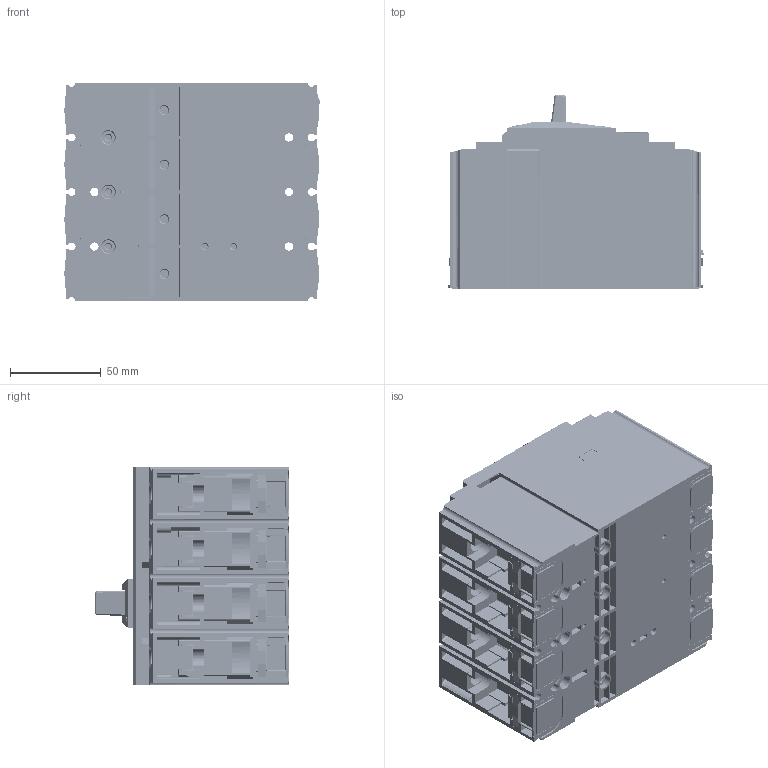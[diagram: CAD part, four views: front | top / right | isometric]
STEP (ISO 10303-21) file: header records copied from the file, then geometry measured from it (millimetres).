
FILE_DESCRIPTION((''),'2;1');
FILE_NAME('TD160_4P_ASM','2009-09-08T',('bsan'),(''),'PRO/ENGINEER BY PARAMETRIC TECHNOLOGY CORPORATION, 2006200','PRO/ENGINEER BY PARAMETRIC TECHNOLOGY CORPORATION, 2006200','');
FILE_SCHEMA(('CONFIG_CONTROL_DESIGN'));
Length unit declared in the file: millimetre
Products named in the file (40): T1_CASE-4P_1; T1_MOUNTER-TERMINAL_1; T1_PLATE-TERMINAL_1; T1_MOUNTER-TERMINAL-ASSY_ASM_1_ASM; T1_CASE-ASSY-4P_ASM_1_ASM; T1_BASE-AEC-S-R_1; T1_CONTACT-FIXED-LINE_1; T1_TIP-FIXED_1; T1_CONTACT-ASSY-FIXED-LINE_AF0__ASM; T1_BASE-AEC-S-L_1; T1_BASE-ASSY-AEC-S_AF0_ASM_1_ASM; T1_HANDLE_1; T1_HANDLE-ON-OFF-ASSY_ASM_1_ASM; T1_MECHANISM-ASSY_ASM_1_ASM; T1_MAIN-ASSY-4P_AF0_ASM_1_ASM; T1_BASE-AEC-RT-R_1; T1_CONTACT-ASSY-FIXED-LINE_AF1__ASM; T1_BASE-AEC-RT-L_1; T1_BASE-ASSY-AEC-RT_AF0_ASM_1_ASM; T1_CONTACT-ASSY-FIXED-LINE_ASM__ASM; T1_BASE-ASSY-AEC-RT_ASM_1_ASM; T1_BASE-ASSY-AEC-N_ASM_1_ASM; T1_TOTAL-ASSY-MAIN-4P_ASM_1_ASM; T1_COVER-4P_1; T1_DIAL-THERMAL_1; T1_COVER-ASSY-4P_ASM_1_ASM; T1_LABEL-STANDARDS_1; T1_PLATE-COVER-TRIP_1; T1_COVER-AUX-N_1; T1_COVER-AUX_1; T1_BUTTON-TRIP_1; T1_COVER-ASSY-AUX_ASM_1_ASM; T1_HEATER_AF0_1; T1_PLATE-TERMINAL-TRIP_1; T1_HEATER-ASSY_ASM_1_ASM; T1_ARMATURE_MOUNTER_1; T1_ARMATURE-ASSY_ASM_1_ASM; T1_CASE-ASSY-TRIP-4P_ASM_1_ASM; T1_TOTAL-ASSY-COMMON-4P_ASM_ASM; TD160_4P_ASM
Assembly tree (61 placements, depth 7):
  TD160_4P_ASM
    T1_TOTAL-ASSY-COMMON-4P_ASM_ASM
      T1_CASE-ASSY-4P_ASM_1_ASM
        T1_CASE-4P_1
        T1_MOUNTER-TERMINAL-ASSY_ASM_1_ASM  x8
          T1_MOUNTER-TERMINAL_1
          T1_PLATE-TERMINAL_1
      T1_TOTAL-ASSY-MAIN-4P_ASM_1_ASM
        T1_MAIN-ASSY-4P_AF0_ASM_1_ASM
          T1_BASE-ASSY-AEC-S_AF0_ASM_1_ASM
            T1_BASE-AEC-S-R_1
            T1_CONTACT-ASSY-FIXED-LINE_AF0__ASM
              T1_CONTACT-FIXED-LINE_1
              T1_TIP-FIXED_1
            T1_BASE-AEC-S-L_1
          T1_MECHANISM-ASSY_ASM_1_ASM
            T1_HANDLE-ON-OFF-ASSY_ASM_1_ASM
              T1_HANDLE_1
        T1_BASE-ASSY-AEC-RT_AF0_ASM_1_ASM
          T1_BASE-AEC-RT-R_1
          T1_CONTACT-ASSY-FIXED-LINE_AF1__ASM
            T1_CONTACT-FIXED-LINE_1
            T1_TIP-FIXED_1
          T1_BASE-AEC-RT-L_1
        T1_BASE-ASSY-AEC-RT_ASM_1_ASM
          T1_BASE-AEC-RT-R_1
          T1_CONTACT-ASSY-FIXED-LINE_ASM__ASM
            T1_CONTACT-FIXED-LINE_1
            T1_TIP-FIXED_1
          T1_BASE-AEC-RT-L_1
        T1_BASE-ASSY-AEC-N_ASM_1_ASM
          T1_BASE-AEC-RT-R_1
          T1_CONTACT-ASSY-FIXED-LINE_ASM__ASM
            T1_CONTACT-FIXED-LINE_1
            T1_TIP-FIXED_1
          T1_BASE-AEC-RT-L_1
      T1_COVER-ASSY-4P_ASM_1_ASM
        T1_COVER-4P_1
        T1_DIAL-THERMAL_1
      T1_LABEL-STANDARDS_1
      T1_PLATE-COVER-TRIP_1
      T1_COVER-AUX-N_1
      T1_COVER-ASSY-AUX_ASM_1_ASM
        T1_COVER-AUX_1
        T1_BUTTON-TRIP_1
      T1_CASE-ASSY-TRIP-4P_ASM_1_ASM
        T1_HEATER-ASSY_ASM_1_ASM  x4
          T1_HEATER_AF0_1
          T1_PLATE-TERMINAL-TRIP_1
        T1_ARMATURE-ASSY_ASM_1_ASM  x4
          T1_ARMATURE_MOUNTER_1
Bounding box: 140.34 x 106.87 x 120 mm (x, y, z)
Volume: 452231.8 mm3; surface area: 439391.2 mm2
Topology: 53 solids, 59 shells, 10771 faces, 31009 edges, 20430 vertices
Faces by surface type: plane 7098, cylinder 3034, torus 296, cone 123, sphere 106, bspline 104, extrusion 7, revolution 3
Entity records: 233499 total; most frequent: CARTESIAN_POINT 49713, ORIENTED_EDGE 39566, DIRECTION 37015, EDGE_CURVE 19789, VECTOR 14408, LINE 14405, VERTEX_POINT 13099, AXIS2_PLACEMENT_3D 11303
